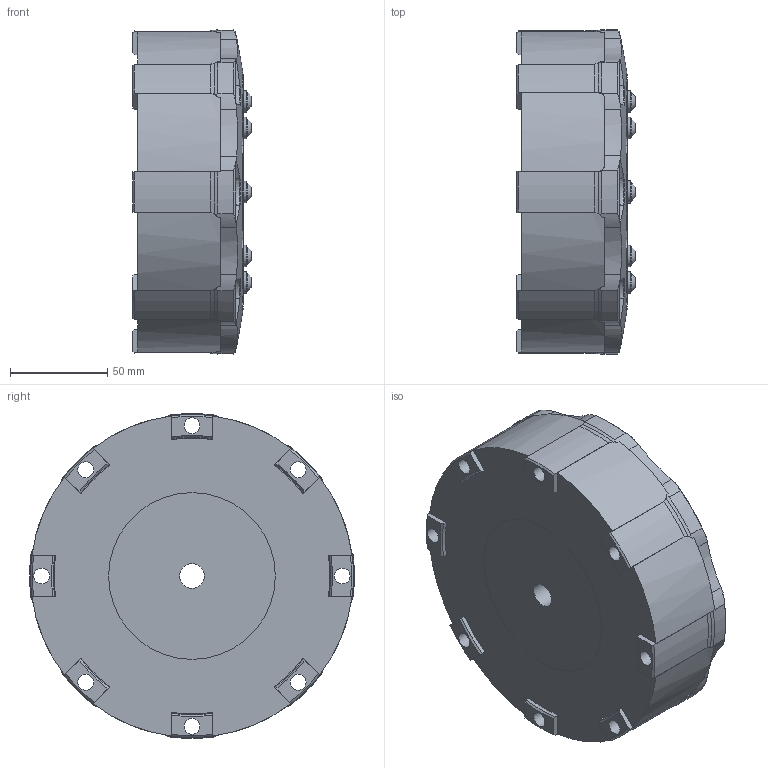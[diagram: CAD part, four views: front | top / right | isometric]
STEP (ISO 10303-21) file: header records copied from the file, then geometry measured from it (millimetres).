
FILE_DESCRIPTION(/* description */ ('Unknown'),/* implementation_level */ '2;1');
FILE_NAME(/* name */ '6554HSG-S',/* time_stamp */ '2018-07-19T08:47:00-07:00',/* author */ ('Unknown'),/* organization */ ('Unknown'),/* preprocessor_version */ 'ST-DEVELOPER v16.7',/* originating_system */ 'DEX',/* authorisation */ $);
FILE_SCHEMA (('AUTOMOTIVE_DESIGN {1 0 10303 214 3 1 1}'));
Length unit declared in the file: millimetre
Products named in the file (1): 6554HSG-S
Bounding box: 60.92 x 166.81 x 166.79 mm (x, y, z)
Volume: 968576.3 mm3; surface area: 139522.6 mm2
Topology: 1 solids, 1 shells, 857 faces, 2442 edges, 1616 vertices
Faces by surface type: cylinder 427, plane 355, cone 42, torus 33
Full cylindrical faces by diameter (mm): 0.508 x8, 4.902 x8, 8.077 x8, 9.169 x8, 11.176 x8, 12.7 x1, 71.095 x1, 85.674 x1, 87.376 x1, 142.697 x1
Entity records: 28240 total; most frequent: CARTESIAN_POINT 5718, ORIENTED_EDGE 4736, DIRECTION 4726, EDGE_CURVE 2368, AXIS2_PLACEMENT_3D 1756, VERTEX_POINT 1606, LINE 1214, VECTOR 1214
